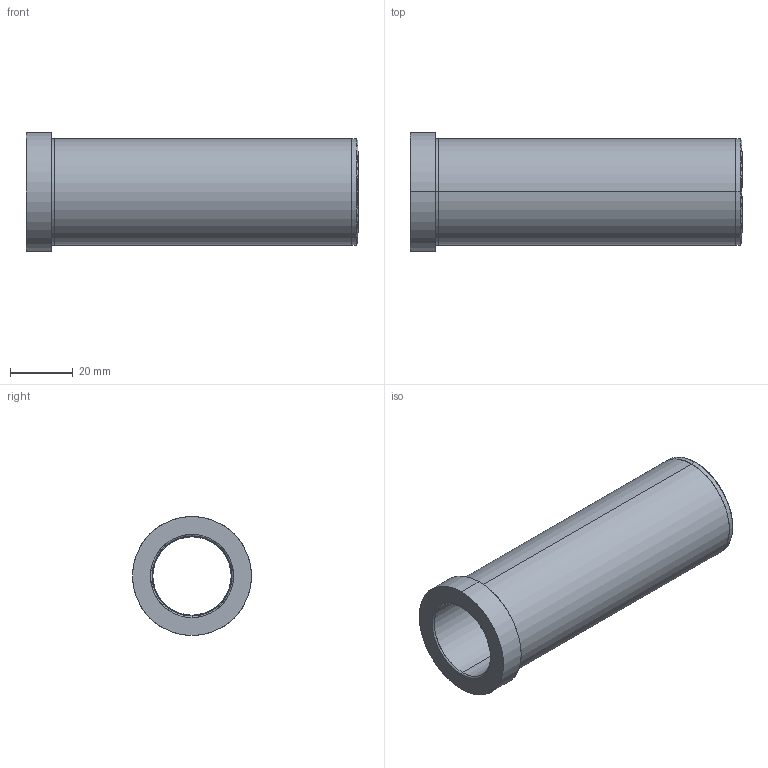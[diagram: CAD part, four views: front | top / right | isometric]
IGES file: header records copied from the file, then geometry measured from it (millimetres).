
Start section: SolidWorks IGES file using analytic representation for surfaces
Global section: file name: C:\Documents and Settings\kalite-mail\Desktop\IGS\D20\D20 - 25x106.IGS; native system: SolidWorks 2008; preprocessor: SolidWorks 2008; author: kalite-mail; date: 080617.114721; units: millimetre
Bounding box: 106 x 38 x 38 mm (x, y, z)
Surface area: 21025.9 mm2 (no closed solid volume)
Topology: 0 solids, 0 shells, 24 faces, 712 edges, 712 vertices
Faces by surface type: revolution 14, bspline 10
